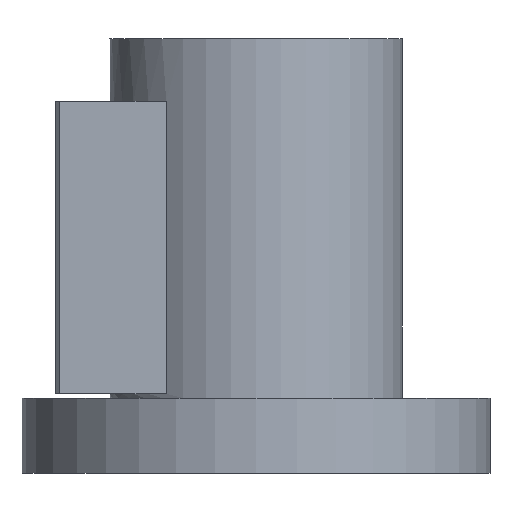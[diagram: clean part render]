
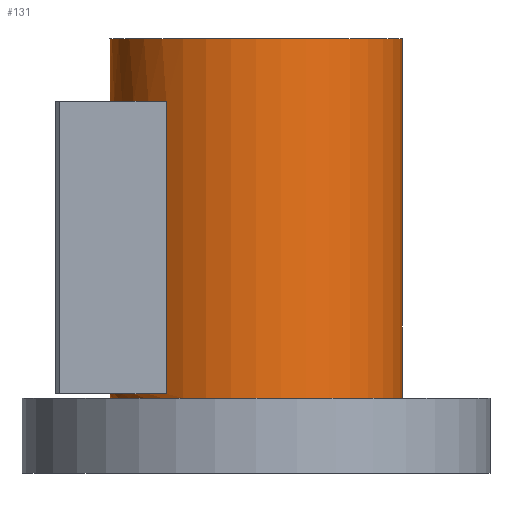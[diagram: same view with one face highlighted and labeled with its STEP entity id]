
A CAD part, front view. The second image highlights one B-rep face of the part: STEP entity #131.
In plain terms, the highlighted cylindrical face has radius 35 mm (diameter 70 mm), a full revolution.
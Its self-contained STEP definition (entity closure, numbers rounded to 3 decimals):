
#131=ADVANCED_FACE('',(#218,#219,#220),#161,.T.);
#161=CYLINDRICAL_SURFACE('',#550,35.);
#174=LINE('',#752,#196);
#175=LINE('',#756,#197);
#196=VECTOR('',#612,1.);
#197=VECTOR('',#615,1.);
#218=FACE_BOUND('',#263,.T.);
#219=FACE_BOUND('',#264,.T.);
#220=FACE_BOUND('',#265,.T.);
#263=EDGE_LOOP('',(#325));
#264=EDGE_LOOP('',(#326));
#265=EDGE_LOOP('',(#327,#328,#329,#330));
#325=ORIENTED_EDGE('',*,*,#467,.F.);
#326=ORIENTED_EDGE('',*,*,#468,.T.);
#327=ORIENTED_EDGE('',*,*,#469,.F.);
#328=ORIENTED_EDGE('',*,*,#470,.F.);
#329=ORIENTED_EDGE('',*,*,#471,.T.);
#330=ORIENTED_EDGE('',*,*,#472,.F.);
#425=VERTEX_POINT('',#746);
#426=VERTEX_POINT('',#748);
#427=VERTEX_POINT('',#750);
#428=VERTEX_POINT('',#751);
#429=VERTEX_POINT('',#753);
#430=VERTEX_POINT('',#755);
#467=EDGE_CURVE('',#425,#425,#517,.T.);
#468=EDGE_CURVE('',#426,#426,#518,.T.);
#469=EDGE_CURVE('',#427,#428,#519,.T.);
#470=EDGE_CURVE('',#429,#427,#174,.T.);
#471=EDGE_CURVE('',#429,#430,#520,.T.);
#472=EDGE_CURVE('',#428,#430,#175,.T.);
#517=CIRCLE('',#546,35.);
#518=CIRCLE('',#547,35.);
#519=CIRCLE('',#548,35.);
#520=CIRCLE('',#549,35.);
#546=AXIS2_PLACEMENT_3D('',#745,#606,#607);
#547=AXIS2_PLACEMENT_3D('',#747,#608,#609);
#548=AXIS2_PLACEMENT_3D('',#749,#610,#611);
#549=AXIS2_PLACEMENT_3D('',#754,#613,#614);
#550=AXIS2_PLACEMENT_3D('',#757,#616,#617);
#606=DIRECTION('',(0.,0.,1.));
#607=DIRECTION('',(1.,0.,0.));
#608=DIRECTION('',(0.,0.,1.));
#609=DIRECTION('',(1.,0.,0.));
#610=DIRECTION('',(0.,0.,-1.));
#611=DIRECTION('',(-1.,0.,0.));
#612=DIRECTION('',(0.,0.,1.));
#613=DIRECTION('',(0.,0.,-1.));
#614=DIRECTION('',(-1.,0.,0.));
#615=DIRECTION('',(0.,0.,-1.));
#616=DIRECTION('',(0.,0.,-1.));
#617=DIRECTION('',(-1.,0.,0.));
#745=CARTESIAN_POINT('',(0.,0.,104.));
#746=CARTESIAN_POINT('',(35.,0.,104.));
#747=CARTESIAN_POINT('',(0.,0.,18.));
#748=CARTESIAN_POINT('',(35.,0.,18.));
#749=CARTESIAN_POINT('',(0.,0.,89.));
#750=CARTESIAN_POINT('',(-21.5,-27.618,89.));
#751=CARTESIAN_POINT('',(-21.5,27.618,89.));
#752=CARTESIAN_POINT('',(-21.5,-27.618,104.));
#753=CARTESIAN_POINT('',(-21.5,-27.618,19.));
#754=CARTESIAN_POINT('',(0.,0.,19.));
#755=CARTESIAN_POINT('',(-21.5,27.618,19.));
#756=CARTESIAN_POINT('',(-21.5,27.618,104.));
#757=CARTESIAN_POINT('',(0.,0.,104.));
